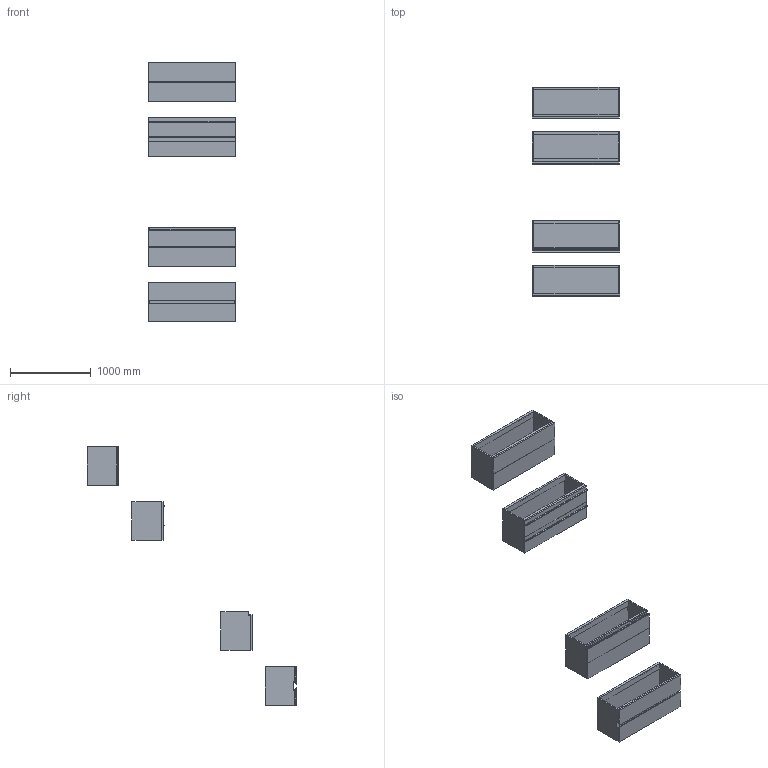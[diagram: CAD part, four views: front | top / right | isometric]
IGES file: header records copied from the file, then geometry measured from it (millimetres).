
Start section: Data from Parasolid IGES Translator 19.0.9, Copyright(c) 2006 Siemens PL M Software. All Rights Reserved.
Global section: file name: noorth-SI-H 48 D 38,8 W 108_8394.igs; native system: By Siemens PLM Incorporated; preprocessor: XPlus GENERIC/IGES 19.0.9; author: Noname; organization: Noname; date: 20200601.101645; units: metre
Bounding box: 1084.84 x 2585.1 x 3199.21 mm (x, y, z)
Volume: 101872288.9 mm3; surface area: 16256354 mm2
Topology: 37 solids, 37 shells, 342 faces, 748 edges, 460 vertices
Faces by surface type: plane 254, extrusion 36, bspline 32, cylinder 20
